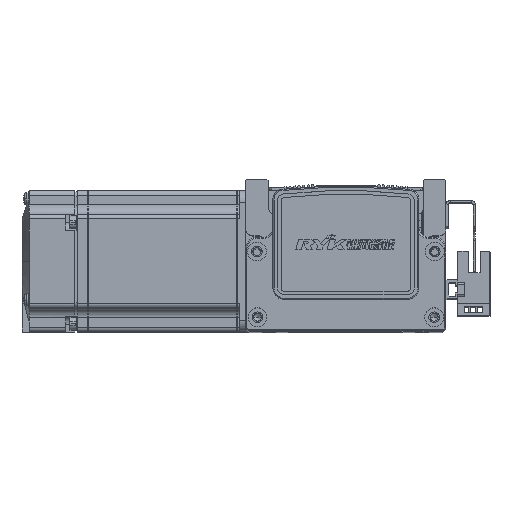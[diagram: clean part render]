
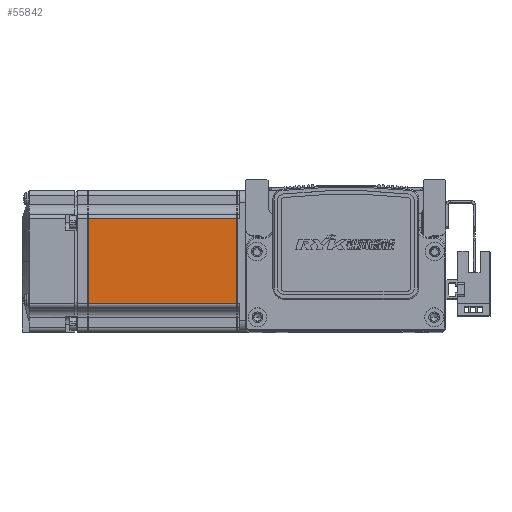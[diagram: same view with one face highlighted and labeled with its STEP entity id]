
A CAD part, top view. The second image highlights one B-rep face of the part: STEP entity #55842.
In plain terms, the highlighted planar face has unit normal (0, 0, 1) as drawn and (0, 0, -1) by its records, which use the part's own axes.
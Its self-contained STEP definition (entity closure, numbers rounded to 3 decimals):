
#4760 = DIRECTION ( 'NONE',  ( -1., 0., 0. ) ) ;
#4769 = CARTESIAN_POINT ( 'NONE',  ( -6.5, -18., -30. ) ) ;
#4788 = CARTESIAN_POINT ( 'NONE',  ( -6.5, 18., -30. ) ) ;
#4789 = DIRECTION ( 'NONE',  ( 1., 0., 0. ) ) ;
#7803 = DIRECTION ( 'NONE',  ( -1., 0., 0. ) ) ;
#7811 = CARTESIAN_POINT ( 'NONE',  ( -6.5, 25., -30. ) ) ;
#7820 = PLANE ( 'NONE',  #51601 ) ;
#7835 = DIRECTION ( 'NONE',  ( 0., 0., -1. ) ) ;
#9276 = VERTEX_POINT ( 'NONE', #16231 ) ;
#9283 = VERTEX_POINT ( 'NONE', #16232 ) ;
#9321 = VERTEX_POINT ( 'NONE', #16293 ) ;
#9372 = VERTEX_POINT ( 'NONE', #16387 ) ;
#12783 = VECTOR ( 'NONE', #61456, 1000. ) ;
#12816 = LINE ( 'NONE', #61428, #12783 ) ;
#13158 = LINE ( 'NONE', #61454, #13168 ) ;
#13168 = VECTOR ( 'NONE', #61453, 1000. ) ;
#13354 = LINE ( 'NONE', #4788, #13365 ) ;
#13358 = LINE ( 'NONE', #4769, #13362 ) ;
#13362 = VECTOR ( 'NONE', #4760, 1000. ) ;
#13365 = VECTOR ( 'NONE', #4789, 1000. ) ;
#16231 = CARTESIAN_POINT ( 'NONE',  ( -70.95, -18., -30. ) ) ;
#16232 = CARTESIAN_POINT ( 'NONE',  ( -7.75, -18., -30. ) ) ;
#16293 = CARTESIAN_POINT ( 'NONE',  ( -70.95, 18., -30. ) ) ;
#16387 = CARTESIAN_POINT ( 'NONE',  ( -7.75, 18., -30. ) ) ;
#20186 = FACE_OUTER_BOUND ( 'NONE', #35833, .T. ) ;
#33365 = ORIENTED_EDGE ( 'NONE', *, *, #46808, .T. ) ;
#33390 = ORIENTED_EDGE ( 'NONE', *, *, #46803, .T. ) ;
#33393 = ORIENTED_EDGE ( 'NONE', *, *, #46862, .T. ) ;
#33440 = ORIENTED_EDGE ( 'NONE', *, *, #46869, .T. ) ;
#35833 = EDGE_LOOP ( 'NONE', ( #33440, #33390, #33393, #33365 ) ) ;
#46803 = EDGE_CURVE ( 'NONE', #9283, #9276, #13358, .T. ) ;
#46808 = EDGE_CURVE ( 'NONE', #9321, #9372, #13354, .T. ) ;
#46862 = EDGE_CURVE ( 'NONE', #9276, #9321, #13158, .T. ) ;
#46869 = EDGE_CURVE ( 'NONE', #9372, #9283, #12816, .T. ) ;
#51601 = AXIS2_PLACEMENT_3D ( 'NONE', #7811, #7835, #7803 ) ;
#55842 = ADVANCED_FACE ( 'NONE', ( #20186 ), #7820, .T. ) ;
#61428 = CARTESIAN_POINT ( 'NONE',  ( -7.75, 25., -30. ) ) ;
#61453 = DIRECTION ( 'NONE',  ( 0., 1., 0. ) ) ;
#61454 = CARTESIAN_POINT ( 'NONE',  ( -70.95, 25., -30. ) ) ;
#61456 = DIRECTION ( 'NONE',  ( 0., -1., 0. ) ) ;
